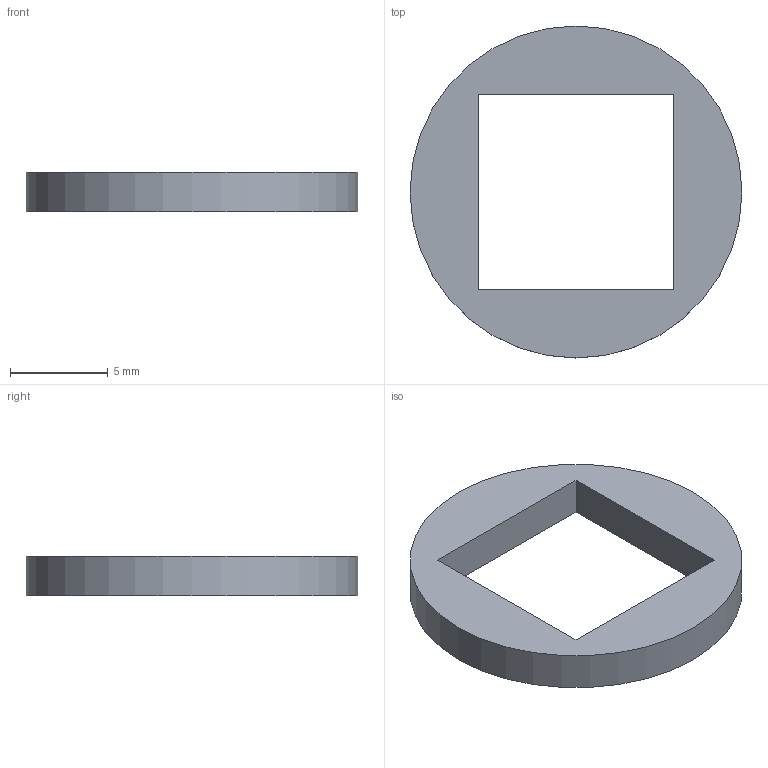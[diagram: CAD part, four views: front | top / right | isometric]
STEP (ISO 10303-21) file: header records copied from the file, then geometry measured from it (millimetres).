
FILE_DESCRIPTION(/* description */ (''),/* implementation_level */ '2;1');
FILE_NAME(/* name */ 'D:/Dokumenty/3D/Luke''s 3D/Projects/Spool winder v3/STEP/Shaft washer.step',/* time_stamp */ '2021-11-14T12:13:14+01:00',/* author */ (''),/* organization */ (''),/* preprocessor_version */ 'ST-DEVELOPER v18.1',/* originating_system */ 'Autodesk Translation Framework v10.10.0.1391',/* authorisation */ '');
FILE_SCHEMA (('AUTOMOTIVE_DESIGN { 1 0 10303 214 3 1 1 }'));
Length unit declared in the file: millimetre
Products named in the file (3): Spool winder 2; Center; Shaft washer 1
Assembly tree (2 placements, depth 3):
  Spool winder 2
    Center
      Shaft washer 1
Bounding box: 17 x 17 x 2 mm (x, y, z)
Volume: 254 mm3; surface area: 440.8 mm2
Topology: 1 solids, 1 shells, 7 faces, 15 edges, 10 vertices
Faces by surface type: plane 6, cylinder 1
Full cylindrical faces by diameter (mm): 17 x1
Entity records: 275 total; most frequent: DIRECTION 41, CARTESIAN_POINT 37, ORIENTED_EDGE 30, EDGE_CURVE 15, AXIS2_PLACEMENT_3D 14, LINE 13, VECTOR 13, VERTEX_POINT 10
